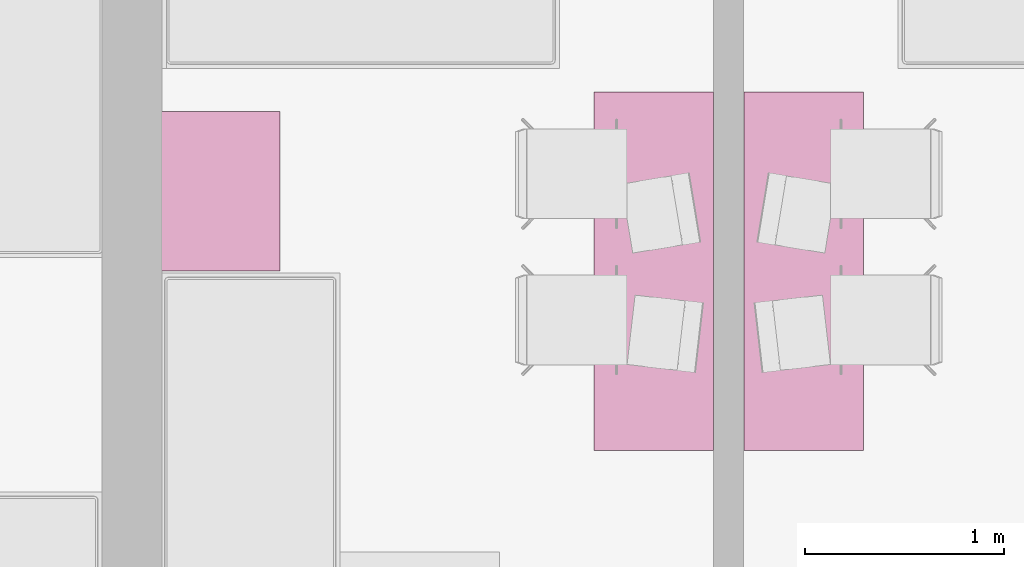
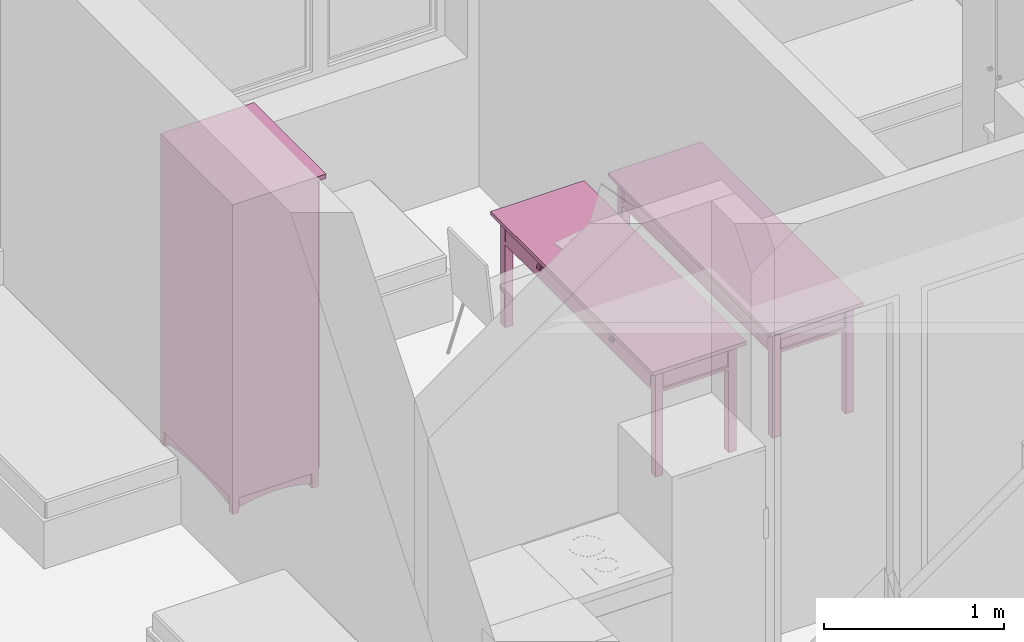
# One storey, part 72 of 165: 3 furnishings.
"""IFC2X3 building model written with IfcOpenShell, lengths in millimetres."""

from ifc_helpers import new_model, entity, si_unit, converted_unit, money_unit, direction, frame, origin_with_axes, place, context, subcontext, project, spatial, faceted_brep, source, transform, mapped, material, material_list, type_object, element, save


model = new_model("IFC2X3")

# Units and contexts
model_context = context("Model", 3, precision=1e-05, world=origin_with_axes(), true_north=direction((0.0, 1.0)))
body_context = subcontext(model_context, "Body", "Model", "MODEL_VIEW")
ifc_project = project(units=[si_unit("LENGTHUNIT", "METRE", prefix="MILLI"), si_unit("AREAUNIT", "SQUARE_METRE"), si_unit("VOLUMEUNIT", "CUBIC_METRE"), converted_unit("PLANEANGLEUNIT", "DEGREE", entity("IfcPlaneAngleMeasure", 0.0174532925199), si_unit("PLANEANGLEUNIT", "RADIAN"), dimensions=[0, 0, 0, 0, 0, 0, 0]), si_unit("SOLIDANGLEUNIT", "STERADIAN"), money_unit("USD"), converted_unit("TIMEUNIT", "Year", entity("IfcTimeMeasure", 31556926.0), si_unit("TIMEUNIT", "SECOND"), dimensions=[0, 0, 0, 0, 0, 0, 0]), si_unit("MASSUNIT", "GRAM"), si_unit("THERMODYNAMICTEMPERATUREUNIT", "DEGREE_CELSIUS"), si_unit("LUMINOUSINTENSITYUNIT", "LUMEN")], contexts=[model_context])

# Site, building, storey
site_placement = place(None, origin_with_axes())
site = spatial("IfcSite", under=ifc_project, at=site_placement, Name="Site", CompositionType="ELEMENT")
building_placement = place(site_placement, origin_with_axes())
building = spatial("IfcBuilding", under=site, at=building_placement, Name="Building", CompositionType="ELEMENT")
storey_placement = place(building_placement, frame((0.0, 0.0, 6300.0), z_axis=(0.0, 0.0, 1.0), x_axis=(1.0, 0.0, 0.0)))
storey = spatial("IfcBuildingStorey", under=building, at=storey_placement, Name="4KORRUS", CompositionType="ELEMENT", Elevation=6300.0)

# Furnishings
ifc_material = material(Name="Background")
ifc_material_list = material_list([ifc_material])
furnishing_element_type_1 = type_object("IfcFurnishingElementType", Name="Cupboard 19")
shared_shape_1 = source(origin_with_axes(), body_context, "Body", "Brep", [
    faceted_brep([(780.0, 600.0, 120.0), (780.0, 600.0, 2050.0), (780.0, 580.0, 2050.0), (780.0, 580.0, 120.0), (20.0, 600.0, 120.0), (20.0, 600.0, 2050.0), (20.0, 580.0, 2050.0), (20.0, 580.0, 120.0)], [[[0, 1, 2, 3]], [[4, 5, 1, 0]], [[1, 5, 6, 2]], [[3, 2, 6, 7]], [[0, 3, 7, 4]], [[7, 6, 5, 4]]]),
    faceted_brep([(0.0, 50.0, 100.0), (0.0, 600.0, 100.0), (20.0, 600.0, 100.0), (20.0, 50.0, 100.0), (0.0, 50.0, 2070.0), (0.0, 600.0, 2070.0), (20.0, 600.0, 2070.0), (20.0, 50.0, 2070.0)], [[[0, 1, 2, 3]], [[0, 4, 5, 1]], [[1, 5, 6, 2]], [[2, 6, 7, 3]], [[3, 7, 4, 0]], [[7, 6, 5, 4]]]),
    faceted_brep([(780.0, 50.0, 100.0), (780.0, 600.0, 100.0), (800.0, 600.0, 100.0), (800.0, 50.0, 100.0), (780.0, 50.0, 2070.0), (780.0, 600.0, 2070.0), (800.0, 600.0, 2070.0), (800.0, 50.0, 2070.0)], [[[0, 1, 2, 3]], [[0, 4, 5, 1]], [[1, 5, 6, 2]], [[2, 6, 7, 3]], [[3, 7, 4, 0]], [[7, 6, 5, 4]]]),
    faceted_brep([(20.0, 50.0, 100.0), (20.0, 600.0, 100.0), (780.0, 600.0, 100.0), (780.0, 50.0, 100.0), (20.0, 50.0, 120.0), (20.0, 600.0, 120.0), (780.0, 600.0, 120.0), (780.0, 50.0, 120.0)], [[[0, 1, 2, 3]], [[0, 4, 5, 1]], [[1, 5, 6, 2]], [[2, 6, 7, 3]], [[3, 7, 4, 0]], [[7, 6, 5, 4]]]),
    faceted_brep([(20.0, 50.0, 2050.0), (20.0, 600.0, 2050.0), (780.0, 600.0, 2050.0), (780.0, 50.0, 2050.0), (20.0, 50.0, 2070.0), (20.0, 600.0, 2070.0), (780.0, 600.0, 2070.0), (780.0, 50.0, 2070.0)], [[[0, 1, 2, 3]], [[0, 4, 5, 1]], [[1, 5, 6, 2]], [[2, 6, 7, 3]], [[3, 7, 4, 0]], [[7, 6, 5, 4]]]),
    faceted_brep([(0.0, 600.0, 2070.0), (0.0, 0.0, 2070.0), (0.0, 0.0, 2100.0), (0.0, 600.0, 2100.0), (800.0, 600.0, 2070.0), (800.0, 0.0, 2070.0), (800.0, 0.0, 2100.0), (800.0, 600.0, 2100.0)], [[[0, 1, 2, 3]], [[0, 4, 5, 1]], [[1, 5, 6, 2]], [[3, 2, 6, 7]], [[4, 0, 3, 7]], [[5, 4, 7, 6]]]),
    faceted_brep([(760.0, 590.0, 25.0), (760.0, 570.0, 25.0), (640.962, 570.0, 45.8), (640.962, 590.0, 45.8), (760.0, 590.0, 100.0), (760.0, 570.0, 100.0), (40.0, 570.0, 100.0), (40.0, 570.0, 25.0), (159.038, 570.0, 45.8), (279.23, 570.0, 58.32), (400.0, 570.0, 62.5), (520.77, 570.0, 58.32), (520.77, 590.0, 58.32), (400.0, 590.0, 62.5), (279.23, 590.0, 58.32), (159.038, 590.0, 45.8), (40.0, 590.0, 25.0), (40.0, 590.0, 100.0)], [[[0, 1, 2, 3]], [[4, 5, 1, 0]], [[1, 5, 6, 7, 8, 9, 10, 11, 2]], [[3, 2, 11, 12]], [[0, 3, 12, 13, 14, 15, 16, 17, 4]], [[17, 6, 5, 4]], [[16, 7, 6, 17]], [[15, 8, 7, 16]], [[14, 9, 8, 15]], [[13, 10, 9, 14]], [[12, 11, 10, 13]]]),
    faceted_brep([(760.0, 80.0, 25.0), (760.0, 60.0, 25.0), (640.962, 60.0, 45.8), (640.962, 80.0, 45.8), (760.0, 80.0, 100.0), (760.0, 60.0, 100.0), (40.0, 60.0, 100.0), (40.0, 60.0, 25.0), (159.038, 60.0, 45.8), (279.23, 60.0, 58.32), (400.0, 60.0, 62.5), (520.77, 60.0, 58.32), (520.77, 80.0, 58.32), (400.0, 80.0, 62.5), (279.23, 80.0, 58.32), (159.038, 80.0, 45.8), (40.0, 80.0, 25.0), (40.0, 80.0, 100.0)], [[[0, 1, 2, 3]], [[4, 5, 1, 0]], [[1, 5, 6, 7, 8, 9, 10, 11, 2]], [[3, 2, 11, 12]], [[0, 3, 12, 13, 14, 15, 16, 17, 4]], [[17, 6, 5, 4]], [[16, 7, 6, 17]], [[15, 8, 7, 16]], [[14, 9, 8, 15]], [[13, 10, 9, 14]], [[12, 11, 10, 13]]]),
    faceted_brep([(790.0, 90.0, 25.0), (770.0, 90.0, 25.0), (770.0, 141.266, 38.072), (790.0, 141.266, 38.072), (790.0, 90.0, 100.0), (770.0, 90.0, 100.0), (770.0, 560.0, 100.0), (770.0, 560.0, 25.0), (770.0, 508.734, 38.072), (770.0, 456.752, 47.92), (770.0, 404.257, 54.508), (770.0, 351.453, 57.808), (770.0, 298.547, 57.808), (770.0, 245.743, 54.508), (770.0, 193.248, 47.92), (790.0, 193.248, 47.92), (790.0, 245.743, 54.508), (790.0, 298.547, 57.808), (790.0, 351.453, 57.808), (790.0, 404.257, 54.508), (790.0, 456.752, 47.92), (790.0, 508.734, 38.072), (790.0, 560.0, 25.0), (790.0, 560.0, 100.0)], [[[0, 1, 2, 3]], [[4, 5, 1, 0]], [[1, 5, 6, 7, 8, 9, 10, 11, 12, 13, 14, 2]], [[3, 2, 14, 15]], [[0, 3, 15, 16, 17, 18, 19, 20, 21, 22, 23, 4]], [[23, 6, 5, 4]], [[22, 7, 6, 23]], [[21, 8, 7, 22]], [[20, 9, 8, 21]], [[19, 10, 9, 20]], [[18, 11, 10, 19]], [[17, 12, 11, 18]], [[16, 13, 12, 17]], [[15, 14, 13, 16]]]),
    faceted_brep([(30.0, 90.0, 25.0), (10.0, 90.0, 25.0), (10.0, 141.266, 38.072), (30.0, 141.266, 38.072), (30.0, 90.0, 100.0), (10.0, 90.0, 100.0), (10.0, 560.0, 100.0), (10.0, 560.0, 25.0), (10.0, 508.734, 38.072), (10.0, 456.752, 47.92), (10.0, 404.257, 54.508), (10.0, 351.453, 57.808), (10.0, 298.547, 57.808), (10.0, 245.743, 54.508), (10.0, 193.248, 47.92), (30.0, 193.248, 47.92), (30.0, 245.743, 54.508), (30.0, 298.547, 57.808), (30.0, 351.453, 57.808), (30.0, 404.257, 54.508), (30.0, 456.752, 47.92), (30.0, 508.734, 38.072), (30.0, 560.0, 25.0), (30.0, 560.0, 100.0)], [[[0, 1, 2, 3]], [[4, 5, 1, 0]], [[1, 5, 6, 7, 8, 9, 10, 11, 12, 13, 14, 2]], [[3, 2, 14, 15]], [[0, 3, 15, 16, 17, 18, 19, 20, 21, 22, 23, 4]], [[23, 6, 5, 4]], [[22, 7, 6, 23]], [[21, 8, 7, 22]], [[20, 9, 8, 21]], [[19, 10, 9, 20]], [[18, 11, 10, 19]], [[17, 12, 11, 18]], [[16, 13, 12, 17]], [[15, 14, 13, 16]]]),
    faceted_brep([(760.0, 560.0, 0.0), (760.0, 560.0, 100.0), (760.0, 600.0, 100.0), (760.0, 600.0, 0.0), (800.0, 560.0, 0.0), (800.0, 560.0, 100.0), (800.0, 600.0, 100.0), (800.0, 600.0, 0.0)], [[[0, 1, 2, 3]], [[4, 5, 1, 0]], [[1, 5, 6, 2]], [[3, 2, 6, 7]], [[0, 3, 7, 4]], [[7, 6, 5, 4]]]),
    faceted_brep([(0.0, 560.0, 0.0), (0.0, 560.0, 100.0), (0.0, 600.0, 100.0), (0.0, 600.0, 0.0), (40.0, 560.0, 0.0), (40.0, 560.0, 100.0), (40.0, 600.0, 100.0), (40.0, 600.0, 0.0)], [[[0, 1, 2, 3]], [[4, 5, 1, 0]], [[1, 5, 6, 2]], [[3, 2, 6, 7]], [[0, 3, 7, 4]], [[7, 6, 5, 4]]]),
    faceted_brep([(760.0, 50.0, 0.0), (760.0, 50.0, 100.0), (760.0, 90.0, 100.0), (760.0, 90.0, 0.0), (800.0, 50.0, 0.0), (800.0, 50.0, 100.0), (800.0, 90.0, 100.0), (800.0, 90.0, 0.0)], [[[0, 1, 2, 3]], [[4, 5, 1, 0]], [[1, 5, 6, 2]], [[3, 2, 6, 7]], [[0, 3, 7, 4]], [[7, 6, 5, 4]]]),
    faceted_brep([(0.0, 50.0, 0.0), (0.0, 50.0, 100.0), (0.0, 90.0, 100.0), (0.0, 90.0, 0.0), (40.0, 50.0, 0.0), (40.0, 50.0, 100.0), (40.0, 90.0, 100.0), (40.0, 90.0, 0.0)], [[[0, 1, 2, 3]], [[4, 5, 1, 0]], [[1, 5, 6, 2]], [[3, 2, 6, 7]], [[0, 3, 7, 4]], [[7, 6, 5, 4]]]),
    faceted_brep([(780.0, 580.0, 587.5), (780.0, 580.0, 607.5), (780.0, 50.0, 607.5), (780.0, 50.0, 587.5), (20.0, 580.0, 587.5), (20.0, 580.0, 607.5), (20.0, 50.0, 607.5), (20.0, 50.0, 587.5)], [[[0, 1, 2, 3]], [[4, 5, 1, 0]], [[1, 5, 6, 2]], [[3, 2, 6, 7]], [[0, 3, 7, 4]], [[7, 6, 5, 4]]]),
    faceted_brep([(780.0, 580.0, 1075.0), (780.0, 580.0, 1095.0), (780.0, 50.0, 1095.0), (780.0, 50.0, 1075.0), (20.0, 580.0, 1075.0), (20.0, 580.0, 1095.0), (20.0, 50.0, 1095.0), (20.0, 50.0, 1075.0)], [[[0, 1, 2, 3]], [[4, 5, 1, 0]], [[1, 5, 6, 2]], [[3, 2, 6, 7]], [[0, 3, 7, 4]], [[7, 6, 5, 4]]]),
    faceted_brep([(780.0, 580.0, 1562.5), (780.0, 580.0, 1582.5), (780.0, 50.0, 1582.5), (780.0, 50.0, 1562.5), (20.0, 580.0, 1562.5), (20.0, 580.0, 1582.5), (20.0, 50.0, 1582.5), (20.0, 50.0, 1562.5)], [[[0, 1, 2, 3]], [[4, 5, 1, 0]], [[1, 5, 6, 2]], [[3, 2, 6, 7]], [[0, 3, 7, 4]], [[7, 6, 5, 4]]]),
    faceted_brep([(789.5, 50.0, 110.5), (400.5, 50.0, 110.5), (400.5, 50.0, 2059.5), (789.5, 50.0, 2059.5), (789.5, 40.0, 110.5), (400.5, 40.0, 110.5), (400.5, 40.0, 2059.5), (789.5, 40.0, 2059.5), (779.5, 30.0, 120.5), (410.5, 30.0, 120.5), (410.5, 30.0, 2049.5), (779.5, 30.0, 2049.5)], [[[0, 1, 2, 3]], [[0, 4, 5, 1]], [[1, 5, 6, 2]], [[2, 6, 7, 3]], [[3, 7, 4, 0]], [[4, 8, 9, 5]], [[5, 9, 10, 6]], [[6, 10, 11, 7]], [[7, 11, 8, 4]], [[10, 9, 8, 11]]]),
    faceted_brep([(399.5, 50.0, 110.5), (10.5, 50.0, 110.5), (10.5, 50.0, 2059.5), (399.5, 50.0, 2059.5), (399.5, 40.0, 110.5), (10.5, 40.0, 110.5), (10.5, 40.0, 2059.5), (399.5, 40.0, 2059.5), (389.5, 30.0, 120.5), (20.5, 30.0, 120.5), (20.5, 30.0, 2049.5), (389.5, 30.0, 2049.5)], [[[0, 1, 2, 3]], [[0, 4, 5, 1]], [[1, 5, 6, 2]], [[2, 6, 7, 3]], [[3, 7, 4, 0]], [[4, 8, 9, 5]], [[5, 9, 10, 6]], [[6, 10, 11, 7]], [[7, 11, 8, 4]], [[10, 9, 8, 11]]]),
    faceted_brep([(339.608, 30.0, 954.0), (338.0, 30.0, 960.0), (339.608, 30.0, 966.0), (344.0, 30.0, 970.392), (350.0, 30.0, 972.0), (356.0, 30.0, 970.392), (360.392, 30.0, 966.0), (362.0, 30.0, 960.0), (360.392, 30.0, 954.0), (356.0, 30.0, 949.608), (350.0, 30.0, 948.0), (344.0, 30.0, 949.608), (339.608, 5.0, 954.0), (338.0, 5.0, 960.0), (339.608, 5.0, 966.0), (344.0, 5.0, 970.392), (350.0, 5.0, 972.0), (356.0, 5.0, 970.392), (360.392, 5.0, 966.0), (362.0, 5.0, 960.0), (360.392, 5.0, 954.0), (356.0, 5.0, 949.608), (350.0, 5.0, 948.0), (344.0, 5.0, 949.608)], [[[0, 1, 2, 3, 4, 5, 6, 7, 8, 9, 10, 11]], [[0, 12, 13, 1]], [[1, 13, 14, 2]], [[2, 14, 15, 3]], [[3, 15, 16, 4]], [[4, 16, 17, 5]], [[5, 17, 18, 6]], [[6, 18, 19, 7]], [[7, 19, 20, 8]], [[8, 20, 21, 9]], [[9, 21, 22, 10]], [[10, 22, 23, 11]], [[11, 23, 12, 0]], [[12, 23, 22, 21, 20, 19, 18, 17, 16, 15, 14, 13]]]),
    faceted_brep([(460.392, 30.0, 954.0), (456.0, 30.0, 949.608), (450.0, 30.0, 948.0), (444.0, 30.0, 949.608), (439.608, 30.0, 954.0), (438.0, 30.0, 960.0), (439.608, 30.0, 966.0), (444.0, 30.0, 970.392), (450.0, 30.0, 972.0), (456.0, 30.0, 970.392), (460.392, 30.0, 966.0), (462.0, 30.0, 960.0), (460.392, 5.0, 954.0), (456.0, 5.0, 949.608), (450.0, 5.0, 948.0), (444.0, 5.0, 949.608), (439.608, 5.0, 954.0), (438.0, 5.0, 960.0), (439.608, 5.0, 966.0), (444.0, 5.0, 970.392), (450.0, 5.0, 972.0), (456.0, 5.0, 970.392), (460.392, 5.0, 966.0), (462.0, 5.0, 960.0)], [[[0, 1, 2, 3, 4, 5, 6, 7, 8, 9, 10, 11]], [[1, 0, 12, 13]], [[2, 1, 13, 14]], [[3, 2, 14, 15]], [[4, 3, 15, 16]], [[5, 4, 16, 17]], [[6, 5, 17, 18]], [[7, 6, 18, 19]], [[8, 7, 19, 20]], [[9, 8, 20, 21]], [[10, 9, 21, 22]], [[11, 10, 22, 23]], [[0, 11, 23, 12]], [[12, 23, 22, 21, 20, 19, 18, 17, 16, 15, 14, 13]]]),
])
furnishing_1_placement = place(storey_placement, frame((-41396.5850987, -7206.41563755, 0.0), z_axis=(0.0, 0.0, 1.0), x_axis=(0.0, 1.0, 0.0)))
element("IfcFurnishingElement", 1, at=furnishing_1_placement, inside=storey, type_object=furnishing_element_type_1, material=ifc_material_list, Name="FU - 014", context=body_context, shape_type="MappedRepresentation", body=[
    mapped(shared_shape_1, transform((0.0, 0.0, 0.0))),
])
furnishing_element_type_2 = type_object("IfcFurnishingElementType", Name="Rectangular Table 01 19")
shared_shape_2 = source(origin_with_axes(), body_context, "Body", "Brep", [
    faceted_brep([(-90.0, 40.0, 0.0), (-90.0, 90.0, 0.0), (-40.0, 90.0, 0.0), (-40.0, 40.0, 0.0), (-90.0, 40.0, 725.0), (-90.0, 90.0, 725.0), (-40.0, 90.0, 725.0), (-40.0, 40.0, 725.0)], [[[0, 1, 2, 3]], [[0, 4, 5, 1]], [[1, 5, 6, 2]], [[2, 6, 7, 3]], [[3, 7, 4, 0]], [[7, 6, 5, 4]]]),
    faceted_brep([(-1760.0, 40.0, 0.0), (-1760.0, 90.0, 0.0), (-1710.0, 90.0, 0.0), (-1710.0, 40.0, 0.0), (-1760.0, 40.0, 725.0), (-1760.0, 90.0, 725.0), (-1710.0, 90.0, 725.0), (-1710.0, 40.0, 725.0)], [[[0, 1, 2, 3]], [[0, 4, 5, 1]], [[1, 5, 6, 2]], [[2, 6, 7, 3]], [[3, 7, 4, 0]], [[7, 6, 5, 4]]]),
    faceted_brep([(-90.0, 510.0, 0.0), (-90.0, 560.0, 0.0), (-40.0, 560.0, 0.0), (-40.0, 510.0, 0.0), (-90.0, 510.0, 725.0), (-90.0, 560.0, 725.0), (-40.0, 560.0, 725.0), (-40.0, 510.0, 725.0)], [[[0, 1, 2, 3]], [[0, 4, 5, 1]], [[1, 5, 6, 2]], [[2, 6, 7, 3]], [[3, 7, 4, 0]], [[7, 6, 5, 4]]]),
    faceted_brep([(-1760.0, 510.0, 0.0), (-1760.0, 560.0, 0.0), (-1710.0, 560.0, 0.0), (-1710.0, 510.0, 0.0), (-1760.0, 510.0, 725.0), (-1760.0, 560.0, 725.0), (-1710.0, 560.0, 725.0), (-1710.0, 510.0, 725.0)], [[[0, 1, 2, 3]], [[0, 4, 5, 1]], [[1, 5, 6, 2]], [[2, 6, 7, 3]], [[3, 7, 4, 0]], [[7, 6, 5, 4]]]),
    faceted_brep([(-1760.0, 40.0, 565.0), (-1760.0, 560.0, 565.0), (-40.0, 560.0, 565.0), (-40.0, 40.0, 565.0), (-1760.0, 40.0, 585.0), (-1760.0, 560.0, 585.0), (-40.0, 560.0, 585.0), (-40.0, 40.0, 585.0)], [[[0, 1, 2, 3]], [[0, 4, 5, 1]], [[1, 5, 6, 2]], [[2, 6, 7, 3]], [[3, 7, 4, 0]], [[7, 6, 5, 4]]]),
    faceted_brep([(-1710.0, 52.5, 585.0), (-1710.0, 77.5, 585.0), (-90.0, 77.5, 585.0), (-90.0, 52.5, 585.0), (-1710.0, 52.5, 745.0), (-1710.0, 77.5, 745.0), (-90.0, 77.5, 745.0), (-90.0, 52.5, 745.0)], [[[0, 1, 2, 3]], [[0, 4, 5, 1]], [[1, 5, 6, 2]], [[2, 6, 7, 3]], [[3, 7, 4, 0]], [[7, 6, 5, 4]]]),
    faceted_brep([(-77.5, 90.0, 585.0), (-77.5, 510.0, 585.0), (-52.5, 510.0, 585.0), (-52.5, 90.0, 585.0), (-77.5, 90.0, 745.0), (-77.5, 510.0, 745.0), (-52.5, 510.0, 745.0), (-52.5, 90.0, 745.0)], [[[0, 1, 2, 3]], [[0, 4, 5, 1]], [[1, 5, 6, 2]], [[2, 6, 7, 3]], [[3, 7, 4, 0]], [[7, 6, 5, 4]]]),
    faceted_brep([(-90.0, 547.5, 585.0), (-90.0, 522.5, 585.0), (-1710.0, 522.5, 585.0), (-1710.0, 547.5, 585.0), (-90.0, 547.5, 745.0), (-90.0, 522.5, 745.0), (-1710.0, 522.5, 745.0), (-1710.0, 547.5, 745.0)], [[[0, 1, 2, 3]], [[0, 4, 5, 1]], [[1, 5, 6, 2]], [[2, 6, 7, 3]], [[3, 7, 4, 0]], [[7, 6, 5, 4]]]),
    faceted_brep([(-1722.5, 510.0, 585.0), (-1722.5, 90.0, 585.0), (-1747.5, 90.0, 585.0), (-1747.5, 510.0, 585.0), (-1722.5, 510.0, 745.0), (-1722.5, 90.0, 745.0), (-1747.5, 90.0, 745.0), (-1747.5, 510.0, 745.0)], [[[0, 1, 2, 3]], [[0, 4, 5, 1]], [[1, 5, 6, 2]], [[2, 6, 7, 3]], [[3, 7, 4, 0]], [[7, 6, 5, 4]]]),
    faceted_brep([(-897.5, 40.0, 585.0), (-897.5, 60.0, 585.0), (-95.0, 60.0, 585.0), (-95.0, 40.0, 585.0), (-897.5, 40.0, 745.0), (-897.5, 60.0, 745.0), (-95.0, 60.0, 745.0), (-95.0, 40.0, 745.0)], [[[0, 1, 2, 3]], [[0, 4, 5, 1]], [[1, 5, 6, 2]], [[2, 6, 7, 3]], [[3, 7, 4, 0]], [[7, 6, 5, 4]]]),
    faceted_brep([(-1705.0, 40.0, 585.0), (-1705.0, 60.0, 585.0), (-902.5, 60.0, 585.0), (-902.5, 40.0, 585.0), (-1705.0, 40.0, 745.0), (-1705.0, 60.0, 745.0), (-902.5, 60.0, 745.0), (-902.5, 40.0, 745.0)], [[[0, 1, 2, 3]], [[0, 4, 5, 1]], [[1, 5, 6, 2]], [[2, 6, 7, 3]], [[3, 7, 4, 0]], [[7, 6, 5, 4]]]),
    faceted_brep([(-504.91, 40.0, 660.0), (-506.25, 40.0, 665.0), (-504.91, 40.0, 670.0), (-501.25, 40.0, 673.66), (-496.25, 40.0, 675.0), (-491.25, 40.0, 673.66), (-487.59, 40.0, 670.0), (-486.25, 40.0, 665.0), (-487.59, 40.0, 660.0), (-491.25, 40.0, 656.34), (-496.25, 40.0, 655.0), (-501.25, 40.0, 656.34), (-504.91, 25.0, 660.0), (-506.25, 25.0, 665.0), (-504.91, 25.0, 670.0), (-501.25, 25.0, 673.66), (-496.25, 25.0, 675.0), (-491.25, 25.0, 673.66), (-487.59, 25.0, 670.0), (-486.25, 25.0, 665.0), (-487.59, 25.0, 660.0), (-491.25, 25.0, 656.34), (-496.25, 25.0, 655.0), (-501.25, 25.0, 656.34)], [[[0, 1, 2, 3, 4, 5, 6, 7, 8, 9, 10, 11]], [[0, 12, 13, 1]], [[1, 13, 14, 2]], [[2, 14, 15, 3]], [[3, 15, 16, 4]], [[4, 16, 17, 5]], [[5, 17, 18, 6]], [[6, 18, 19, 7]], [[7, 19, 20, 8]], [[8, 20, 21, 9]], [[9, 21, 22, 10]], [[10, 22, 23, 11]], [[11, 23, 12, 0]], [[12, 23, 22, 21, 20, 19, 18, 17, 16, 15, 14, 13]]]),
    faceted_brep([(-506.25, 12.01, 665.0), (-504.91, 12.01, 660.0), (-496.25, 10.0, 665.0), (-513.571, 17.5, 665.0), (-511.25, 17.5, 656.34), (-501.25, 12.01, 656.34), (-504.91, 12.01, 670.0), (-516.25, 25.0, 665.0), (-513.571, 25.0, 655.0), (-504.91, 17.5, 650.0), (-511.25, 17.5, 673.66), (-496.25, 12.01, 655.0), (-501.25, 12.01, 673.66), (-513.571, 25.0, 675.0), (-506.25, 25.0, 682.321), (-496.25, 25.0, 685.0), (-486.25, 25.0, 682.321), (-478.929, 25.0, 675.0), (-476.25, 25.0, 665.0), (-478.929, 25.0, 655.0), (-486.25, 25.0, 647.679), (-496.25, 25.0, 645.0), (-506.25, 25.0, 647.679), (-496.25, 17.5, 647.679), (-504.91, 17.5, 680.0), (-491.25, 12.01, 656.34), (-496.25, 12.01, 675.0), (-496.25, 17.5, 682.321), (-487.59, 17.5, 680.0), (-481.25, 17.5, 673.66), (-478.929, 17.5, 665.0), (-481.25, 17.5, 656.34), (-487.59, 17.5, 650.0), (-487.59, 12.01, 660.0), (-491.25, 12.01, 673.66), (-487.59, 12.01, 670.0), (-486.25, 12.01, 665.0)], [[[0, 1, 2]], [[3, 4, 1, 0]], [[1, 5, 2]], [[6, 0, 2]], [[7, 8, 4, 3]], [[4, 9, 5, 1]], [[10, 3, 0, 6]], [[5, 11, 2]], [[12, 6, 2]], [[8, 7, 13, 14, 15, 16, 17, 18, 19, 20, 21, 22]], [[8, 22, 9, 4]], [[13, 7, 3, 10]], [[9, 23, 11, 5]], [[24, 10, 6, 12]], [[11, 25, 2]], [[26, 12, 2]], [[14, 13, 10, 24]], [[15, 14, 24, 27]], [[16, 15, 27, 28]], [[17, 16, 28, 29]], [[18, 17, 29, 30]], [[19, 18, 30, 31]], [[20, 19, 31, 32]], [[21, 20, 32, 23]], [[22, 21, 23, 9]], [[23, 32, 25, 11]], [[27, 24, 12, 26]], [[25, 33, 2]], [[34, 26, 2]], [[28, 27, 26, 34]], [[29, 28, 34, 35]], [[30, 29, 35, 36]], [[31, 30, 36, 33]], [[32, 31, 33, 25]], [[33, 36, 2]], [[35, 34, 2]], [[36, 35, 2]]]),
    faceted_brep([(-1312.41, 40.0, 660.0), (-1313.75, 40.0, 665.0), (-1312.41, 40.0, 670.0), (-1308.75, 40.0, 673.66), (-1303.75, 40.0, 675.0), (-1298.75, 40.0, 673.66), (-1295.09, 40.0, 670.0), (-1293.75, 40.0, 665.0), (-1295.09, 40.0, 660.0), (-1298.75, 40.0, 656.34), (-1303.75, 40.0, 655.0), (-1308.75, 40.0, 656.34), (-1312.41, 25.0, 660.0), (-1313.75, 25.0, 665.0), (-1312.41, 25.0, 670.0), (-1308.75, 25.0, 673.66), (-1303.75, 25.0, 675.0), (-1298.75, 25.0, 673.66), (-1295.09, 25.0, 670.0), (-1293.75, 25.0, 665.0), (-1295.09, 25.0, 660.0), (-1298.75, 25.0, 656.34), (-1303.75, 25.0, 655.0), (-1308.75, 25.0, 656.34)], [[[0, 1, 2, 3, 4, 5, 6, 7, 8, 9, 10, 11]], [[0, 12, 13, 1]], [[1, 13, 14, 2]], [[2, 14, 15, 3]], [[3, 15, 16, 4]], [[4, 16, 17, 5]], [[5, 17, 18, 6]], [[6, 18, 19, 7]], [[7, 19, 20, 8]], [[8, 20, 21, 9]], [[9, 21, 22, 10]], [[10, 22, 23, 11]], [[11, 23, 12, 0]], [[12, 23, 22, 21, 20, 19, 18, 17, 16, 15, 14, 13]]]),
    faceted_brep([(-1313.75, 12.01, 665.0), (-1312.41, 12.01, 660.0), (-1303.75, 10.0, 665.0), (-1321.071, 17.5, 665.0), (-1318.75, 17.5, 656.34), (-1308.75, 12.01, 656.34), (-1312.41, 12.01, 670.0), (-1323.75, 25.0, 665.0), (-1321.071, 25.0, 655.0), (-1312.41, 17.5, 650.0), (-1318.75, 17.5, 673.66), (-1303.75, 12.01, 655.0), (-1308.75, 12.01, 673.66), (-1321.071, 25.0, 675.0), (-1313.75, 25.0, 682.321), (-1303.75, 25.0, 685.0), (-1293.75, 25.0, 682.321), (-1286.429, 25.0, 675.0), (-1283.75, 25.0, 665.0), (-1286.429, 25.0, 655.0), (-1293.75, 25.0, 647.679), (-1303.75, 25.0, 645.0), (-1313.75, 25.0, 647.679), (-1303.75, 17.5, 647.679), (-1312.41, 17.5, 680.0), (-1298.75, 12.01, 656.34), (-1303.75, 12.01, 675.0), (-1303.75, 17.5, 682.321), (-1295.09, 17.5, 680.0), (-1288.75, 17.5, 673.66), (-1286.429, 17.5, 665.0), (-1288.75, 17.5, 656.34), (-1295.09, 17.5, 650.0), (-1295.09, 12.01, 660.0), (-1298.75, 12.01, 673.66), (-1295.09, 12.01, 670.0), (-1293.75, 12.01, 665.0)], [[[0, 1, 2]], [[3, 4, 1, 0]], [[1, 5, 2]], [[6, 0, 2]], [[7, 8, 4, 3]], [[4, 9, 5, 1]], [[10, 3, 0, 6]], [[5, 11, 2]], [[12, 6, 2]], [[8, 7, 13, 14, 15, 16, 17, 18, 19, 20, 21, 22]], [[8, 22, 9, 4]], [[13, 7, 3, 10]], [[9, 23, 11, 5]], [[24, 10, 6, 12]], [[11, 25, 2]], [[26, 12, 2]], [[14, 13, 10, 24]], [[15, 14, 24, 27]], [[16, 15, 27, 28]], [[17, 16, 28, 29]], [[18, 17, 29, 30]], [[19, 18, 30, 31]], [[20, 19, 31, 32]], [[21, 20, 32, 23]], [[22, 21, 23, 9]], [[23, 32, 25, 11]], [[27, 24, 12, 26]], [[25, 33, 2]], [[34, 26, 2]], [[28, 27, 26, 34]], [[29, 28, 34, 35]], [[30, 29, 35, 36]], [[31, 30, 36, 33]], [[32, 31, 33, 25]], [[33, 36, 2]], [[35, 34, 2]], [[36, 35, 2]]]),
    faceted_brep([(-1800.0, 0.0, 725.0), (-1800.0, 600.0, 725.0), (0.0, 600.0, 725.0), (0.0, 0.0, 725.0), (-1800.0, 0.0, 750.0), (-1800.0, 600.0, 750.0), (0.0, 600.0, 750.0), (0.0, 0.0, 750.0)], [[[0, 1, 2, 3]], [[0, 4, 5, 1]], [[1, 5, 6, 2]], [[2, 6, 7, 3]], [[3, 7, 4, 0]], [[7, 6, 5, 4]]]),
])
furnishing_2_placement = place(storey_placement, frame((-38471.1382791, -6307.26955348, 0.0), z_axis=(0.0, 0.0, 1.0), x_axis=(0.0, 1.0, 0.0)))
element("IfcFurnishingElement", 2, at=furnishing_2_placement, inside=storey, type_object=furnishing_element_type_2, material=ifc_material_list, Name="FU - 011", context=body_context, shape_type="MappedRepresentation", body=[
    mapped(shared_shape_2, transform((0.0, 0.0, 0.0))),
])
shared_shape_3 = source(origin_with_axes(), body_context, "Body", "Brep", [
    faceted_brep([(90.0, 40.0, 0.0), (40.0, 40.0, 0.0), (40.0, 90.0, 0.0), (90.0, 90.0, 0.0), (90.0, 40.0, 725.0), (40.0, 40.0, 725.0), (40.0, 90.0, 725.0), (90.0, 90.0, 725.0)], [[[0, 1, 2, 3]], [[1, 0, 4, 5]], [[2, 1, 5, 6]], [[3, 2, 6, 7]], [[0, 3, 7, 4]], [[5, 4, 7, 6]]]),
    faceted_brep([(1760.0, 40.0, 0.0), (1710.0, 40.0, 0.0), (1710.0, 90.0, 0.0), (1760.0, 90.0, 0.0), (1760.0, 40.0, 725.0), (1710.0, 40.0, 725.0), (1710.0, 90.0, 725.0), (1760.0, 90.0, 725.0)], [[[0, 1, 2, 3]], [[1, 0, 4, 5]], [[2, 1, 5, 6]], [[3, 2, 6, 7]], [[0, 3, 7, 4]], [[5, 4, 7, 6]]]),
    faceted_brep([(90.0, 510.0, 0.0), (40.0, 510.0, 0.0), (40.0, 560.0, 0.0), (90.0, 560.0, 0.0), (90.0, 510.0, 725.0), (40.0, 510.0, 725.0), (40.0, 560.0, 725.0), (90.0, 560.0, 725.0)], [[[0, 1, 2, 3]], [[1, 0, 4, 5]], [[2, 1, 5, 6]], [[3, 2, 6, 7]], [[0, 3, 7, 4]], [[5, 4, 7, 6]]]),
    faceted_brep([(1760.0, 510.0, 0.0), (1710.0, 510.0, 0.0), (1710.0, 560.0, 0.0), (1760.0, 560.0, 0.0), (1760.0, 510.0, 725.0), (1710.0, 510.0, 725.0), (1710.0, 560.0, 725.0), (1760.0, 560.0, 725.0)], [[[0, 1, 2, 3]], [[1, 0, 4, 5]], [[2, 1, 5, 6]], [[3, 2, 6, 7]], [[0, 3, 7, 4]], [[5, 4, 7, 6]]]),
    faceted_brep([(1760.0, 40.0, 565.0), (40.0, 40.0, 565.0), (40.0, 560.0, 565.0), (1760.0, 560.0, 565.0), (1760.0, 40.0, 585.0), (40.0, 40.0, 585.0), (40.0, 560.0, 585.0), (1760.0, 560.0, 585.0)], [[[0, 1, 2, 3]], [[1, 0, 4, 5]], [[2, 1, 5, 6]], [[3, 2, 6, 7]], [[0, 3, 7, 4]], [[5, 4, 7, 6]]]),
    faceted_brep([(1710.0, 52.5, 585.0), (90.0, 52.5, 585.0), (90.0, 77.5, 585.0), (1710.0, 77.5, 585.0), (1710.0, 52.5, 745.0), (90.0, 52.5, 745.0), (90.0, 77.5, 745.0), (1710.0, 77.5, 745.0)], [[[0, 1, 2, 3]], [[1, 0, 4, 5]], [[2, 1, 5, 6]], [[3, 2, 6, 7]], [[0, 3, 7, 4]], [[5, 4, 7, 6]]]),
    faceted_brep([(77.5, 90.0, 585.0), (52.5, 90.0, 585.0), (52.5, 510.0, 585.0), (77.5, 510.0, 585.0), (77.5, 90.0, 745.0), (52.5, 90.0, 745.0), (52.5, 510.0, 745.0), (77.5, 510.0, 745.0)], [[[0, 1, 2, 3]], [[1, 0, 4, 5]], [[2, 1, 5, 6]], [[3, 2, 6, 7]], [[0, 3, 7, 4]], [[5, 4, 7, 6]]]),
    faceted_brep([(90.0, 547.5, 585.0), (1710.0, 547.5, 585.0), (1710.0, 522.5, 585.0), (90.0, 522.5, 585.0), (90.0, 547.5, 745.0), (1710.0, 547.5, 745.0), (1710.0, 522.5, 745.0), (90.0, 522.5, 745.0)], [[[0, 1, 2, 3]], [[1, 0, 4, 5]], [[2, 1, 5, 6]], [[3, 2, 6, 7]], [[0, 3, 7, 4]], [[5, 4, 7, 6]]]),
    faceted_brep([(1722.5, 510.0, 585.0), (1747.5, 510.0, 585.0), (1747.5, 90.0, 585.0), (1722.5, 90.0, 585.0), (1722.5, 510.0, 745.0), (1747.5, 510.0, 745.0), (1747.5, 90.0, 745.0), (1722.5, 90.0, 745.0)], [[[0, 1, 2, 3]], [[1, 0, 4, 5]], [[2, 1, 5, 6]], [[3, 2, 6, 7]], [[0, 3, 7, 4]], [[5, 4, 7, 6]]]),
    faceted_brep([(897.5, 40.0, 585.0), (95.0, 40.0, 585.0), (95.0, 60.0, 585.0), (897.5, 60.0, 585.0), (897.5, 40.0, 745.0), (95.0, 40.0, 745.0), (95.0, 60.0, 745.0), (897.5, 60.0, 745.0)], [[[0, 1, 2, 3]], [[1, 0, 4, 5]], [[2, 1, 5, 6]], [[3, 2, 6, 7]], [[0, 3, 7, 4]], [[5, 4, 7, 6]]]),
    faceted_brep([(1705.0, 40.0, 585.0), (902.5, 40.0, 585.0), (902.5, 60.0, 585.0), (1705.0, 60.0, 585.0), (1705.0, 40.0, 745.0), (902.5, 40.0, 745.0), (902.5, 60.0, 745.0), (1705.0, 60.0, 745.0)], [[[0, 1, 2, 3]], [[1, 0, 4, 5]], [[2, 1, 5, 6]], [[3, 2, 6, 7]], [[0, 3, 7, 4]], [[5, 4, 7, 6]]]),
    faceted_brep([(504.91, 40.0, 660.0), (501.25, 40.0, 656.34), (496.25, 40.0, 655.0), (491.25, 40.0, 656.34), (487.59, 40.0, 660.0), (486.25, 40.0, 665.0), (487.59, 40.0, 670.0), (491.25, 40.0, 673.66), (496.25, 40.0, 675.0), (501.25, 40.0, 673.66), (504.91, 40.0, 670.0), (506.25, 40.0, 665.0), (504.91, 25.0, 660.0), (501.25, 25.0, 656.34), (496.25, 25.0, 655.0), (491.25, 25.0, 656.34), (487.59, 25.0, 660.0), (486.25, 25.0, 665.0), (487.59, 25.0, 670.0), (491.25, 25.0, 673.66), (496.25, 25.0, 675.0), (501.25, 25.0, 673.66), (504.91, 25.0, 670.0), (506.25, 25.0, 665.0)], [[[0, 1, 2, 3, 4, 5, 6, 7, 8, 9, 10, 11]], [[1, 0, 12, 13]], [[2, 1, 13, 14]], [[3, 2, 14, 15]], [[4, 3, 15, 16]], [[5, 4, 16, 17]], [[6, 5, 17, 18]], [[7, 6, 18, 19]], [[8, 7, 19, 20]], [[9, 8, 20, 21]], [[10, 9, 21, 22]], [[11, 10, 22, 23]], [[0, 11, 23, 12]], [[12, 23, 22, 21, 20, 19, 18, 17, 16, 15, 14, 13]]]),
    faceted_brep([(506.25, 12.01, 665.0), (496.25, 10.0, 665.0), (504.91, 12.01, 660.0), (504.91, 12.01, 670.0), (501.25, 12.01, 656.34), (513.571, 17.5, 665.0), (511.25, 17.5, 656.34), (501.25, 12.01, 673.66), (511.25, 17.5, 673.66), (496.25, 12.01, 655.0), (504.91, 17.5, 650.0), (516.25, 25.0, 665.0), (513.571, 25.0, 655.0), (496.25, 12.01, 675.0), (504.91, 17.5, 680.0), (513.571, 25.0, 675.0), (491.25, 12.01, 656.34), (496.25, 17.5, 647.679), (506.25, 25.0, 647.679), (496.25, 25.0, 645.0), (486.25, 25.0, 647.679), (478.929, 25.0, 655.0), (476.25, 25.0, 665.0), (478.929, 25.0, 675.0), (486.25, 25.0, 682.321), (496.25, 25.0, 685.0), (506.25, 25.0, 682.321), (491.25, 12.01, 673.66), (496.25, 17.5, 682.321), (487.59, 12.01, 660.0), (487.59, 17.5, 650.0), (481.25, 17.5, 656.34), (478.929, 17.5, 665.0), (481.25, 17.5, 673.66), (487.59, 17.5, 680.0), (487.59, 12.01, 670.0), (486.25, 12.01, 665.0)], [[[0, 1, 2]], [[3, 1, 0]], [[2, 1, 4]], [[5, 0, 2, 6]], [[7, 1, 3]], [[8, 3, 0, 5]], [[4, 1, 9]], [[6, 2, 4, 10]], [[11, 5, 6, 12]], [[13, 1, 7]], [[14, 7, 3, 8]], [[15, 8, 5, 11]], [[9, 1, 16]], [[10, 4, 9, 17]], [[12, 6, 10, 18]], [[12, 18, 19, 20, 21, 22, 23, 24, 25, 26, 15, 11]], [[27, 1, 13]], [[28, 13, 7, 14]], [[26, 14, 8, 15]], [[16, 1, 29]], [[17, 9, 16, 30]], [[18, 10, 17, 19]], [[19, 17, 30, 20]], [[20, 30, 31, 21]], [[21, 31, 32, 22]], [[22, 32, 33, 23]], [[23, 33, 34, 24]], [[24, 34, 28, 25]], [[25, 28, 14, 26]], [[35, 1, 27]], [[34, 27, 13, 28]], [[29, 1, 36]], [[30, 16, 29, 31]], [[31, 29, 36, 32]], [[32, 36, 35, 33]], [[33, 35, 27, 34]], [[36, 1, 35]]]),
    faceted_brep([(1312.41, 40.0, 660.0), (1308.75, 40.0, 656.34), (1303.75, 40.0, 655.0), (1298.75, 40.0, 656.34), (1295.09, 40.0, 660.0), (1293.75, 40.0, 665.0), (1295.09, 40.0, 670.0), (1298.75, 40.0, 673.66), (1303.75, 40.0, 675.0), (1308.75, 40.0, 673.66), (1312.41, 40.0, 670.0), (1313.75, 40.0, 665.0), (1312.41, 25.0, 660.0), (1308.75, 25.0, 656.34), (1303.75, 25.0, 655.0), (1298.75, 25.0, 656.34), (1295.09, 25.0, 660.0), (1293.75, 25.0, 665.0), (1295.09, 25.0, 670.0), (1298.75, 25.0, 673.66), (1303.75, 25.0, 675.0), (1308.75, 25.0, 673.66), (1312.41, 25.0, 670.0), (1313.75, 25.0, 665.0)], [[[0, 1, 2, 3, 4, 5, 6, 7, 8, 9, 10, 11]], [[1, 0, 12, 13]], [[2, 1, 13, 14]], [[3, 2, 14, 15]], [[4, 3, 15, 16]], [[5, 4, 16, 17]], [[6, 5, 17, 18]], [[7, 6, 18, 19]], [[8, 7, 19, 20]], [[9, 8, 20, 21]], [[10, 9, 21, 22]], [[11, 10, 22, 23]], [[0, 11, 23, 12]], [[12, 23, 22, 21, 20, 19, 18, 17, 16, 15, 14, 13]]]),
    faceted_brep([(1313.75, 12.01, 665.0), (1303.75, 10.0, 665.0), (1312.41, 12.01, 660.0), (1312.41, 12.01, 670.0), (1308.75, 12.01, 656.34), (1321.071, 17.5, 665.0), (1318.75, 17.5, 656.34), (1308.75, 12.01, 673.66), (1318.75, 17.5, 673.66), (1303.75, 12.01, 655.0), (1312.41, 17.5, 650.0), (1323.75, 25.0, 665.0), (1321.071, 25.0, 655.0), (1303.75, 12.01, 675.0), (1312.41, 17.5, 680.0), (1321.071, 25.0, 675.0), (1298.75, 12.01, 656.34), (1303.75, 17.5, 647.679), (1313.75, 25.0, 647.679), (1303.75, 25.0, 645.0), (1293.75, 25.0, 647.679), (1286.429, 25.0, 655.0), (1283.75, 25.0, 665.0), (1286.429, 25.0, 675.0), (1293.75, 25.0, 682.321), (1303.75, 25.0, 685.0), (1313.75, 25.0, 682.321), (1298.75, 12.01, 673.66), (1303.75, 17.5, 682.321), (1295.09, 12.01, 660.0), (1295.09, 17.5, 650.0), (1288.75, 17.5, 656.34), (1286.429, 17.5, 665.0), (1288.75, 17.5, 673.66), (1295.09, 17.5, 680.0), (1295.09, 12.01, 670.0), (1293.75, 12.01, 665.0)], [[[0, 1, 2]], [[3, 1, 0]], [[2, 1, 4]], [[5, 0, 2, 6]], [[7, 1, 3]], [[8, 3, 0, 5]], [[4, 1, 9]], [[6, 2, 4, 10]], [[11, 5, 6, 12]], [[13, 1, 7]], [[14, 7, 3, 8]], [[15, 8, 5, 11]], [[9, 1, 16]], [[10, 4, 9, 17]], [[12, 6, 10, 18]], [[12, 18, 19, 20, 21, 22, 23, 24, 25, 26, 15, 11]], [[27, 1, 13]], [[28, 13, 7, 14]], [[26, 14, 8, 15]], [[16, 1, 29]], [[17, 9, 16, 30]], [[18, 10, 17, 19]], [[19, 17, 30, 20]], [[20, 30, 31, 21]], [[21, 31, 32, 22]], [[22, 32, 33, 23]], [[23, 33, 34, 24]], [[24, 34, 28, 25]], [[25, 28, 14, 26]], [[35, 1, 27]], [[34, 27, 13, 28]], [[29, 1, 36]], [[30, 16, 29, 31]], [[31, 29, 36, 32]], [[32, 36, 35, 33]], [[33, 35, 27, 34]], [[36, 1, 35]]]),
    faceted_brep([(1800.0, 0.0, 725.0), (0.0, 0.0, 725.0), (0.0, 600.0, 725.0), (1800.0, 600.0, 725.0), (1800.0, 0.0, 750.0), (0.0, 0.0, 750.0), (0.0, 600.0, 750.0), (1800.0, 600.0, 750.0)], [[[0, 1, 2, 3]], [[1, 0, 4, 5]], [[2, 1, 5, 6]], [[3, 2, 6, 7]], [[0, 3, 7, 4]], [[5, 4, 7, 6]]]),
])
furnishing_3_placement = place(storey_placement, frame((-39822.0319183, -6307.26955348, 0.0), z_axis=(0.0, 0.0, 1.0), x_axis=(0.0, -1.0, 0.0)))
element("IfcFurnishingElement", 3, at=furnishing_3_placement, inside=storey, type_object=furnishing_element_type_2, material=ifc_material_list, Name="FU - 011", context=body_context, shape_type="MappedRepresentation", body=[
    mapped(shared_shape_3, transform((0.0, 0.0, 0.0))),
])

save(model, "model.ifc")
